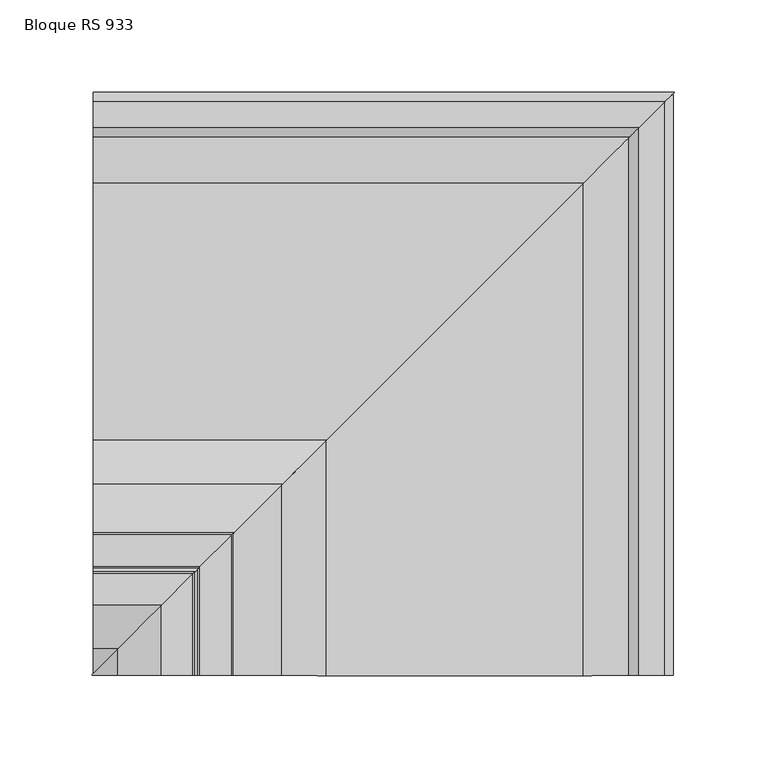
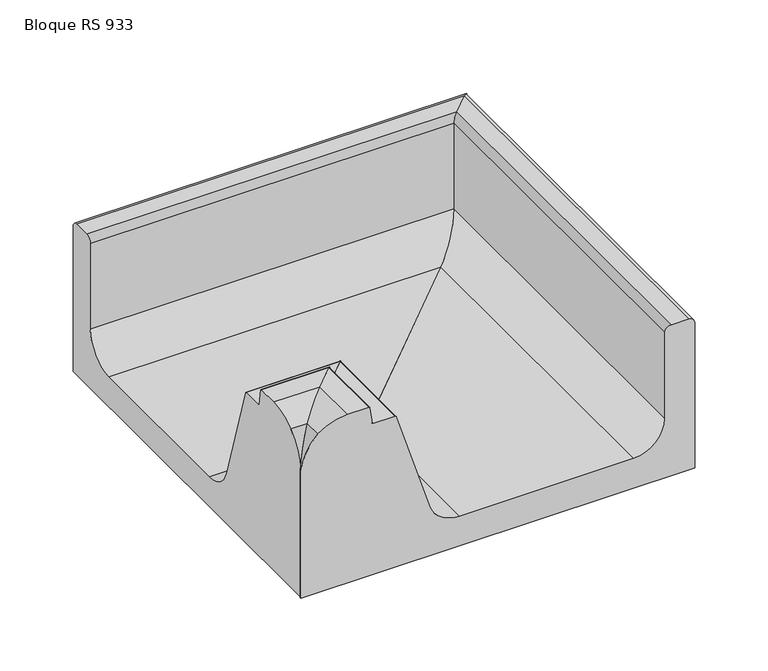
"""IFC4 building model written with IfcOpenShell, lengths in millimetres: proxy geometry, ROSA GRES_RS 933 : Bloque RS 933."""

from ifc_helpers import new_model, si_unit, frame, origin, place, context, project, spatial, polyline, circle_curve, ellipse_curve, source, transform, mapped, element, save
from ifc_brep_helpers import plane_surface, cylinder_surface, revolved_surface, advanced_brep


def bloque_rs_933_df1aee71(model_context):
    return source(origin(), model_context, "Body", "AdvancedBrep", [
        advanced_brep(
        [(0.0, -0.6679652, 122.0), (0.0, -0.6679652, 0.0), (-0.6675267, -0.6679652, 0.0), (-0.6675267, -0.6679652, 124.4959318), (-24.0, -314.6679652, 50.0), (-49.0, -314.6679652, 25.0), (-187.9712082, -314.6679652, 25.0), (-211.8261216, -314.6679652, 42.5204875), (-238.0942441, -314.6679652, 126.2991805), (-239.0484406, -314.6679652, 127.0), (-256.2608423, -314.6679652, 127.0), (-257.2518894, -314.6679652, 127.8664873), (-259.0392068, -314.6679652, 141.1335127), (-260.0302539, -314.6679652, 142.0), (-277.1546976, -314.6679652, 142.0), (-300.6788437, -314.6679652, 133.8951135), (-314.0004385, -314.6679652, 106.7811976), (-314.0004385, -314.6679652, 0.0), (0.0, -314.6679652, 0.0), (0.0, -314.6679652, 122.0), (-5.0, -314.6679652, 127.0), (-19.0049206, -314.6679652, 127.0), (-24.0, -314.6679652, 122.221769), (-24.0, -24.0004385, 122.221769), (-24.0, -24.0004385, 50.0), (-19.0049206, -19.0053591, 127.0), (-5.0, -5.0004385, 127.0), (-314.0004385, -314.000877, 0.0), (-314.0004385, -314.000877, 106.7811976), (-300.6788437, -300.6792822, 133.8951135), (-277.1546976, -277.1551361, 142.0), (-260.0302539, -260.0306924, 142.0), (-259.0392068, -259.0396453, 141.1335127), (-257.2518894, -257.2523279, 127.8664873), (-256.2608423, -256.2612807, 127.0), (-239.0484406, -239.0488791, 127.0), (-238.0942441, -238.0946826, 126.2991805), (-211.8261216, -211.8265601, 42.5204875), (-187.9712082, -187.9716467, 25.0), (-49.0, -49.0004385, 25.0)],
        [
            (0, 1),
            (1, 2),
            (2, 3),
            (3, 0, circle_curve(frame((-5.0, -0.6679652, 122.0), z_axis=(0.0, 1.0, 0.0), x_axis=(1.0, 0.0, 0.0)), 5.0)),
            (4, 5, circle_curve(frame((-49.0, -314.6679652, 50.0), z_axis=(0.0, 1.0, 0.0), x_axis=(1.0, 0.0, 0.0)), 25.0)),
            (5, 6),
            (6, 7, circle_curve(frame((-188.4205973, -314.6679652, 49.3881371), z_axis=(0.0, 1.0, 0.0), x_axis=(1.0, 0.0, 0.0)), 24.3922771)),
            (7, 8),
            (8, 9, circle_curve(frame((-239.0484406, -314.6679652, 126.0), z_axis=(0.0, -1.0, 0.0), x_axis=(1.0, 0.0, 0.0)), 1.0)),
            (9, 10),
            (10, 11, circle_curve(frame((-256.2608423, -314.6679652, 128.0), z_axis=(0.0, 1.0, 0.0), x_axis=(1.0, 0.0, 0.0)), 1.0)),
            (11, 12),
            (12, 13, circle_curve(frame((-260.0302539, -314.6679652, 141.0), z_axis=(0.0, -1.0, 0.0), x_axis=(1.0, 0.0, 0.0)), 1.0)),
            (13, 14),
            (14, 15, circle_curve(frame((-274.5914593, -314.6679652, 96.3688476), z_axis=(0.0, -1.0, 0.0), x_axis=(1.0, 0.0, 0.0)), 45.7030881)),
            (15, 16, circle_curve(frame((-272.0149743, -314.6679652, 102.982459), z_axis=(0.0, -1.0, 0.0), x_axis=(1.0, 0.0, 0.0)), 42.1569641)),
            (16, 17),
            (17, 18),
            (18, 19),
            (19, 20, circle_curve(frame((-5.0, -314.6679652, 122.0), z_axis=(0.0, -1.0, 0.0), x_axis=(1.0, 0.0, 0.0)), 5.0)),
            (20, 21),
            (21, 22, circle_curve(frame((-19.0049206, -314.6679652, 122.0), z_axis=(0.0, -1.0, 0.0), x_axis=(1.0, 0.0, 0.0)), 5.0)),
            (22, 4),
            (22, 23),
            (23, 24),
            (24, 4),
            (21, 25),
            (25, 23, ellipse_curve(frame((-19.0049206, -19.0053591, 122.0), z_axis=(0.7071067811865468, -0.7071067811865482, 0.0), x_axis=(0.7071067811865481, 0.7071067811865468, 0.0)), 7.0710678, 5.0)),
            (20, 26),
            (26, 25),
            (19, 0),
            (3, 26, ellipse_curve(frame((-5.0, -5.0004385, 122.0), z_axis=(0.7071067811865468, -0.7071067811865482, 0.0), x_axis=(0.7071067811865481, 0.7071067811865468, 0.0)), 7.0710678, 5.0)),
            (18, 1),
            (17, 27),
            (27, 2),
            (16, 28),
            (28, 27),
            (15, 29),
            (29, 28, ellipse_curve(frame((-272.0149743, -272.0154128, 102.982459), z_axis=(0.7071067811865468, -0.7071067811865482, 0.0), x_axis=(0.7071067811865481, 0.7071067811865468, 0.0)), 59.6189503, 42.1569641)),
            (14, 30),
            (30, 29, ellipse_curve(frame((-274.5914593, -274.5918977, 96.3688476), z_axis=(0.7071067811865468, -0.7071067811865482, 0.0), x_axis=(0.7071067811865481, 0.7071067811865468, 0.0)), 64.633927, 45.7030881)),
            (13, 31),
            (31, 30),
            (12, 32),
            (32, 31, ellipse_curve(frame((-260.0302539, -260.0306924, 141.0), z_axis=(0.7071067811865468, -0.7071067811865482, 0.0), x_axis=(0.7071067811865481, 0.7071067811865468, 0.0)), 1.4142136, 1.0)),
            (11, 33),
            (33, 32),
            (10, 34),
            (34, 33, ellipse_curve(frame((-256.2608423, -256.2612807, 128.0), z_axis=(-0.7071067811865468, 0.7071067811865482, 0.0), x_axis=(-0.7071067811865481, -0.7071067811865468, 0.0)), 1.4142136, 1.0)),
            (9, 35),
            (35, 34),
            (8, 36),
            (36, 35, ellipse_curve(frame((-239.0484406, -239.0488791, 126.0), z_axis=(0.7071067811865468, -0.7071067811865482, 0.0), x_axis=(0.7071067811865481, 0.7071067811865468, 0.0)), 1.4142136, 1.0)),
            (7, 37),
            (37, 36),
            (6, 38),
            (38, 37, ellipse_curve(frame((-188.4205973, -188.4210358, 49.3881371), z_axis=(-0.7071067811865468, 0.7071067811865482, 0.0), x_axis=(-0.7071067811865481, -0.7071067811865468, 0.0)), 34.495889, 24.3922771)),
            (5, 39),
            (39, 38),
            (24, 39, ellipse_curve(frame((-49.0, -49.0004385, 50.0), z_axis=(-0.7071067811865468, 0.7071067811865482, 0.0), x_axis=(-0.7071067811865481, -0.7071067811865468, 0.0)), 35.3553391, 25.0)),
        ],
        [
            plane_surface(frame((0.0, -0.6679652, 0.0), z_axis=(0.0, 1.0, 0.0), x_axis=(0.0, 0.0, 1.0))),
            plane_surface(frame((0.0, -314.6679652, 0.0), z_axis=(0.0, -1.0, 0.0), x_axis=(0.0, 0.0, 1.0))),
            plane_surface(frame((-24.0, -0.6679652, 50.0), z_axis=(-1.0, 0.0, 0.0), x_axis=(0.0, -1.0, 0.0))),
            cylinder_surface(frame((-19.0049206, -0.6679652, 122.0), z_axis=(0.0, 1.0, 0.0), x_axis=(1.0, 0.0, 0.0)), 5.0),
            plane_surface(frame((-19.0049206, -0.6679652, 127.0), z_axis=(0.0, 0.0, 1.0), x_axis=(0.0, -1.0, 0.0))),
            cylinder_surface(frame((-5.0, -0.6679652, 122.0), z_axis=(0.0, 1.0, 0.0), x_axis=(1.0, 0.0, 0.0)), 5.0),
            plane_surface(frame((0.0, -0.6679652, 122.0), z_axis=(1.0, 0.0, 0.0), x_axis=(0.0, -1.0, 0.0))),
            plane_surface(frame((0.0, -0.6679652, 0.0), z_axis=(0.0, 0.0, -1.0), x_axis=(0.0, -1.0, 0.0))),
            plane_surface(frame((-314.0004385, -0.6679652, 0.0), z_axis=(-1.0, 0.0, 0.0), x_axis=(0.0, -1.0, 0.0))),
            cylinder_surface(frame((-272.0149743, -0.6679652, 102.982459), z_axis=(0.0, 1.0, 0.0), x_axis=(1.0, 0.0, 0.0)), 42.1569641),
            cylinder_surface(frame((-274.5914593, -0.6679652, 96.3688476), z_axis=(0.0, 1.0, 0.0), x_axis=(1.0, 0.0, 0.0)), 45.7030881),
            plane_surface(frame((-277.1546976, -0.6679652, 142.0), z_axis=(0.0, 0.0, 1.0), x_axis=(0.0, -1.0, 0.0))),
            cylinder_surface(frame((-260.0302539, -0.6679652, 141.0), z_axis=(0.0, 1.0, 0.0), x_axis=(1.0, 0.0, 0.0)), 1.0),
            plane_surface(frame((-259.0392068, -0.6679652, 141.1335127), z_axis=(0.9910471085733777, 0.0, 0.13351265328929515), x_axis=(0.0, -1.0, 0.0))),
            revolved_surface(polyline([(-255.26084229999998, -314.6679652, 128.0), (-255.26084229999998, -255.26128067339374, 128.0)]), (-256.2608423, -0.6679652, 128.0), (0.0, -1.0, 0.0)),
            plane_surface(frame((-256.2608423, -0.6679652, 127.0), z_axis=(0.0, 0.0, 1.0), x_axis=(0.0, -1.0, 0.0))),
            cylinder_surface(frame((-239.0484406, -0.6679652, 126.0), z_axis=(0.0, 1.0, 0.0), x_axis=(1.0, 0.0, 0.0)), 1.0),
            plane_surface(frame((-238.0942441, -0.6679652, 126.2991805), z_axis=(0.9541965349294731, 0.0, 0.29918050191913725), x_axis=(0.0, -1.0, 0.0))),
            revolved_surface(polyline([(-164.0283202, -314.6679652, 49.3881371), (-164.0283202, -164.0287587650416, 49.3881371)]), (-188.4205973, -0.6679652, 49.3881371), (0.0, -1.0, 0.0)),
            plane_surface(frame((-187.9712082, -0.6679652, 25.0), z_axis=(0.0, 0.0, 1.0), x_axis=(0.0, -1.0, 0.0))),
            revolved_surface(polyline([(-24.0, -314.6679652, 50.0), (-24.0, -24.00043847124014, 50.0)]), (-49.0, -0.6679652, 50.0), (0.0, -1.0, 0.0)),
            plane_surface(frame((-327.6624761, -327.6629146, 164.5691952), z_axis=(-0.7071067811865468, 0.7071067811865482, 0.0), x_axis=(0.0, 0.0, -1.0))),
        ],
        [
            (0, [[1, 2, 3, 4]]),
            (1, [[5, 6, 7, 8, 9, 10, 11, 12, 13, 14, 15, 16, 17, 18, 19, 20, 21, 22, 23]]),
            (2, [[-23, 24, 25, 26]]),
            (3, [[-22, 27, 28, -24]]),
            (4, [[-21, 29, 30, -27]]),
            (5, [[-20, 31, -4, 32, -29]]),
            (6, [[-1, -31, -19, 33]]),
            (7, [[-18, 34, 35, -2, -33]]),
            (8, [[-17, 36, 37, -34]]),
            (9, [[-16, 38, 39, -36]]),
            (10, [[-15, 40, 41, -38]]),
            (11, [[-14, 42, 43, -40]]),
            (12, [[-13, 44, 45, -42]]),
            (13, [[-12, 46, 47, -44]]),
            (14, [[-11, 48, 49, -46]]),
            (15, [[-10, 50, 51, -48]]),
            (16, [[-9, 52, 53, -50]]),
            (17, [[-8, 54, 55, -52]]),
            (18, [[-7, 56, 57, -54]]),
            (19, [[-6, 58, 59, -56]]),
            (20, [[-5, -26, 60, -58]]),
            (21, [[-3, -35, -37, -39, -41, -43, -45, -47, -49, -51, -53, -55, -57, -59, -60, -25, -28, -30, -32]]),
        ],
    ),
        advanced_brep(
        [(-313.5203405, -23.5203405, 50.0), (-313.5203405, -23.5203405, 122.221769), (-313.5203405, -18.525261, 127.0), (-313.5203405, -4.5203405, 127.0), (-313.5203405, 0.4796595, 122.0), (-313.5203405, 0.4796595, 0.0), (-313.5203405, -313.520779, 0.0), (-313.5203405, -313.520779, 106.7811976), (-313.5203405, -300.1991841, 133.8951135), (-313.5203405, -276.675038, 142.0), (-313.5203405, -259.5505944, 142.0), (-313.5203405, -258.5595472, 141.1335127), (-313.5203405, -256.7722298, 127.8664873), (-313.5203405, -255.7811827, 127.0), (-313.5203405, -238.5687811, 127.0), (-313.5203405, -237.6145845, 126.2991805), (-313.5203405, -211.3464621, 42.5204875), (-313.5203405, -187.4915487, 25.0), (-313.5203405, -48.5203405, 25.0), (-23.519902, -23.5203405, 50.0), (-23.519902, -23.5203405, 122.221769), (-18.5248226, -18.525261, 127.0), (-4.519902, -4.5203405, 127.0), (0.4798646, 0.4794261, 122.0483166), (0.480098, 0.4796595, 0.0), (-300.1987457, -300.1991841, 133.8951135), (-276.6745996, -276.675038, 142.0), (-259.5501559, -259.5505944, 142.0), (-258.5591088, -258.5595472, 141.1335127), (-256.7717914, -256.7722298, 127.8664873), (-255.7807442, -255.7811827, 127.0), (-238.5683426, -238.5687811, 127.0), (-237.6141461, -237.6145845, 126.2991805), (-211.3460236, -211.3464621, 42.5204875), (-187.4911102, -187.4915487, 25.0), (-48.519902, -48.5203405, 25.0)],
        [
            (0, 1),
            (1, 2, circle_curve(frame((-313.5203405, -18.525261, 122.0), z_axis=(-1.0, 0.0, 0.0), x_axis=(0.0, 1.0, 0.0)), 5.0)),
            (2, 3),
            (3, 4, circle_curve(frame((-313.5203405, -4.5203405, 122.0), z_axis=(-1.0, 0.0, 0.0), x_axis=(0.0, 1.0, 0.0)), 5.0)),
            (4, 5),
            (5, 6),
            (6, 7),
            (7, 8, circle_curve(frame((-313.5203405, -271.5353148, 102.982459), z_axis=(-1.0, 0.0, 0.0), x_axis=(0.0, 1.0, 0.0)), 42.1569641)),
            (8, 9, circle_curve(frame((-313.5203405, -274.1117997, 96.3688476), z_axis=(-1.0, 0.0, 0.0), x_axis=(0.0, 1.0, 0.0)), 45.7030881)),
            (9, 10),
            (10, 11, circle_curve(frame((-313.5203405, -259.5505944, 141.0), z_axis=(-1.0, 0.0, 0.0), x_axis=(0.0, 1.0, 0.0)), 1.0)),
            (11, 12),
            (12, 13, circle_curve(frame((-313.5203405, -255.7811827, 128.0), z_axis=(1.0, 0.0, 0.0), x_axis=(0.0, 1.0, 0.0)), 1.0)),
            (13, 14),
            (14, 15, circle_curve(frame((-313.5203405, -238.5687811, 126.0), z_axis=(-1.0, 0.0, 0.0), x_axis=(0.0, 1.0, 0.0)), 1.0)),
            (15, 16),
            (16, 17, circle_curve(frame((-313.5203405, -187.9409378, 49.3881371), z_axis=(1.0, 0.0, 0.0), x_axis=(0.0, 1.0, 0.0)), 24.3922771)),
            (17, 18),
            (18, 0, circle_curve(frame((-313.5203405, -48.5203405, 50.0), z_axis=(1.0, 0.0, 0.0), x_axis=(0.0, 1.0, 0.0)), 25.0)),
            (0, 19),
            (19, 20),
            (20, 1),
            (20, 21, ellipse_curve(frame((-18.5248226, -18.525261, 122.0), z_axis=(-0.7071067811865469, 0.7071067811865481, 0.0), x_axis=(-0.7071067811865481, -0.7071067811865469, 0.0)), 7.0710678, 5.0)),
            (21, 2),
            (21, 22),
            (22, 3),
            (22, 23, ellipse_curve(frame((-4.519902, -4.5203405, 122.0), z_axis=(-0.7071067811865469, 0.7071067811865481, 0.0), x_axis=(-0.7071067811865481, -0.7071067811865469, 0.0)), 7.0710678, 5.0)),
            (23, 4),
            (23, 24),
            (24, 5),
            (24, 6),
            (7, 25, ellipse_curve(frame((-271.5348763, -271.5353148, 102.982459), z_axis=(-0.7071067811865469, 0.7071067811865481, 0.0), x_axis=(-0.7071067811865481, -0.7071067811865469, 0.0)), 59.6189503, 42.1569641)),
            (25, 8),
            (25, 26, ellipse_curve(frame((-274.1113612, -274.1117997, 96.3688476), z_axis=(-0.7071067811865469, 0.7071067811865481, 0.0), x_axis=(-0.7071067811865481, -0.7071067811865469, 0.0)), 64.633927, 45.7030881)),
            (26, 9),
            (26, 27),
            (27, 10),
            (27, 28, ellipse_curve(frame((-259.5501559, -259.5505944, 141.0), z_axis=(-0.7071067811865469, 0.7071067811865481, 0.0), x_axis=(-0.7071067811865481, -0.7071067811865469, 0.0)), 1.4142136, 1.0)),
            (28, 11),
            (28, 29),
            (29, 12),
            (29, 30, ellipse_curve(frame((-255.7807442, -255.7811827, 128.0), z_axis=(0.7071067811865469, -0.7071067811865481, 0.0), x_axis=(0.7071067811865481, 0.7071067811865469, 0.0)), 1.4142136, 1.0)),
            (30, 13),
            (30, 31),
            (31, 14),
            (31, 32, ellipse_curve(frame((-238.5683426, -238.5687811, 126.0), z_axis=(-0.7071067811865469, 0.7071067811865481, 0.0), x_axis=(-0.7071067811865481, -0.7071067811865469, 0.0)), 1.4142136, 1.0)),
            (32, 15),
            (32, 33),
            (33, 16),
            (33, 34, ellipse_curve(frame((-187.9404993, -187.9409378, 49.3881371), z_axis=(0.7071067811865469, -0.7071067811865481, 0.0), x_axis=(0.7071067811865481, 0.7071067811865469, 0.0)), 34.495889, 24.3922771)),
            (34, 17),
            (34, 35),
            (35, 18),
            (35, 19, ellipse_curve(frame((-48.519902, -48.5203405, 50.0), z_axis=(0.7071067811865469, -0.7071067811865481, 0.0), x_axis=(0.7071067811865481, 0.7071067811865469, 0.0)), 35.3553391, 25.0)),
        ],
        [
            plane_surface(frame((-313.5203405, 0.4796595, 0.0), z_axis=(-1.0, 0.0, 0.0), x_axis=(0.0, 0.0, 1.0))),
            plane_surface(frame((-313.5203405, -23.5203405, 50.0), z_axis=(0.0, -1.0, 0.0), x_axis=(1.0, 0.0, 0.0))),
            cylinder_surface(frame((-313.5203405, -18.525261, 122.0), z_axis=(-1.0, 0.0, 0.0), x_axis=(0.0, 1.0, 0.0)), 5.0),
            plane_surface(frame((-313.5203405, -18.525261, 127.0), z_axis=(0.0, 0.0, 1.0), x_axis=(1.0, 0.0, 0.0))),
            cylinder_surface(frame((-313.5203405, -4.5203405, 122.0), z_axis=(-1.0, 0.0, 0.0), x_axis=(0.0, 1.0, 0.0)), 5.0),
            plane_surface(frame((-313.5203405, 0.4796595, 122.0), z_axis=(0.0, 1.0, 0.0), x_axis=(1.0, 0.0, 0.0))),
            plane_surface(frame((-313.5203405, 0.4796595, 0.0), z_axis=(0.0, 0.0, -1.0), x_axis=(1.0, 0.0, 0.0))),
            cylinder_surface(frame((-313.5203405, -271.5353148, 102.982459), z_axis=(-1.0, 0.0, 0.0), x_axis=(0.0, 1.0, 0.0)), 42.1569641),
            cylinder_surface(frame((-313.5203405, -274.1117997, 96.3688476), z_axis=(-1.0, 0.0, 0.0), x_axis=(0.0, 1.0, 0.0)), 45.7030881),
            plane_surface(frame((-313.5203405, -276.675038, 142.0), z_axis=(0.0, 0.0, 1.0), x_axis=(1.0, 0.0, 0.0))),
            cylinder_surface(frame((-313.5203405, -259.5505944, 141.0), z_axis=(-1.0, 0.0, 0.0), x_axis=(0.0, 1.0, 0.0)), 1.0),
            plane_surface(frame((-313.5203405, -258.5595472, 141.1335127), z_axis=(0.0, 0.9910471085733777, 0.13351265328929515), x_axis=(1.0, 0.0, 0.0))),
            revolved_surface(polyline([(-254.78074417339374, -254.7811827, 128.0), (-313.5203405, -254.7811827, 128.0)]), (-313.5203405, -255.7811827, 128.0), (1.0, 0.0, 0.0)),
            plane_surface(frame((-313.5203405, -255.7811827, 127.0), z_axis=(0.0, 0.0, 1.0), x_axis=(1.0, 0.0, 0.0))),
            cylinder_surface(frame((-313.5203405, -238.5687811, 126.0), z_axis=(-1.0, 0.0, 0.0), x_axis=(0.0, 1.0, 0.0)), 1.0),
            plane_surface(frame((-313.5203405, -237.6145845, 126.2991805), z_axis=(0.0, 0.9541965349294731, 0.29918050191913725), x_axis=(1.0, 0.0, 0.0))),
            revolved_surface(polyline([(-163.54822226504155, -163.5486607, 49.3881371), (-313.5203405, -163.5486607, 49.3881371)]), (-313.5203405, -187.9409378, 49.3881371), (1.0, 0.0, 0.0)),
            plane_surface(frame((-313.5203405, -187.4915487, 25.0), z_axis=(0.0, 0.0, 1.0), x_axis=(1.0, 0.0, 0.0))),
            revolved_surface(polyline([(-23.519901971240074, -23.520340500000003, 50.0), (-313.5203405, -23.520340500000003, 50.0)]), (-313.5203405, -48.5203405, 50.0), (1.0, 0.0, 0.0)),
            plane_surface(frame((25.0, 24.9995615, 164.5691952), z_axis=(0.7071067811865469, -0.7071067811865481, 0.0), x_axis=(0.0, 0.0, -1.0))),
        ],
        [
            (0, [[1, 2, 3, 4, 5, 6, 7, 8, 9, 10, 11, 12, 13, 14, 15, 16, 17, 18, 19]]),
            (1, [[-1, 20, 21, 22]]),
            (2, [[-2, -22, 23, 24]]),
            (3, [[-3, -24, 25, 26]]),
            (4, [[-4, -26, 27, 28]]),
            (5, [[-5, -28, 29, 30]]),
            (6, [[-6, -30, 31]]),
            (7, [[-8, 32, 33]]),
            (8, [[-9, -33, 34, 35]]),
            (9, [[-10, -35, 36, 37]]),
            (10, [[-11, -37, 38, 39]]),
            (11, [[-12, -39, 40, 41]]),
            (12, [[-13, -41, 42, 43]]),
            (13, [[-14, -43, 44, 45]]),
            (14, [[-15, -45, 46, 47]]),
            (15, [[-16, -47, 48, 49]]),
            (16, [[-17, -49, 50, 51]]),
            (17, [[-18, -51, 52, 53]]),
            (18, [[-19, -53, 54, -20]]),
            (19, [[-7, -31, -29, -27, -25, -23, -21, -54, -52, -50, -48, -46, -44, -42, -40, -38, -36, -34, -32]]),
        ],
    ),
    ])


if __name__ == "__main__":
    model = new_model("IFC4")
    model_context = context("Model", 3, world=origin())
    ifc_project = project(units=[si_unit("LENGTHUNIT", "METRE", prefix="MILLI")], contexts=[model_context])
    site = spatial("IfcSite", under=ifc_project)
    building = spatial("IfcBuilding", under=site)
    placement = place(None, origin())
    bloque_rs_933_shape = bloque_rs_933_df1aee71(model_context)
    element("IfcBuildingElementProxy", 1, Name="ROSA GRES_RS 933 : Bloque RS 933", ObjectType="ROSA GRES_RS 933 : Bloque RS 933", at=placement, inside=building, context=model_context, shape_type="MappedRepresentation", body=[
        mapped(bloque_rs_933_shape, transform((0.0, 0.0, 0.0), x_axis=(1.0, 0.0, 0.0), y_axis=(0.0, 1.0, 0.0), z_axis=(0.0, 0.0, 1.0))),
    ])
    save(model, "model.ifc")
